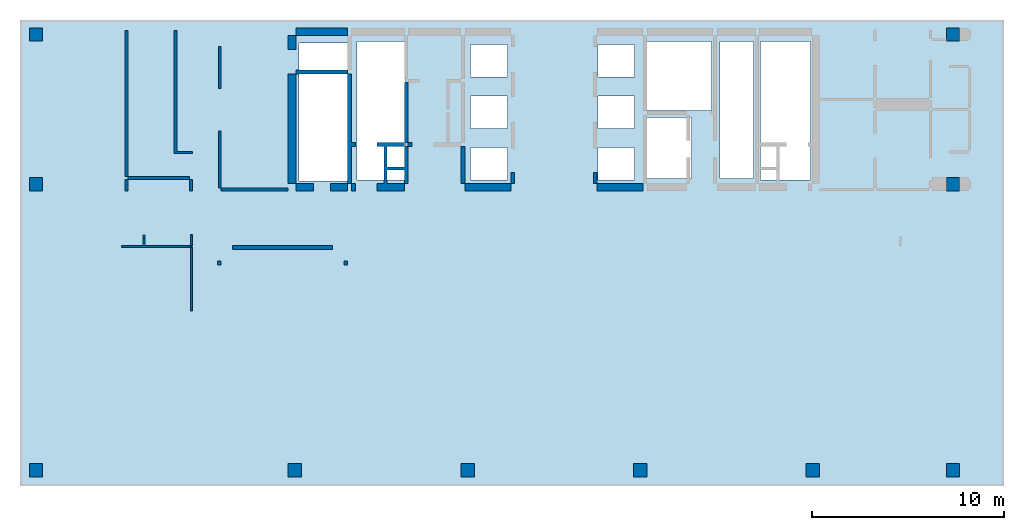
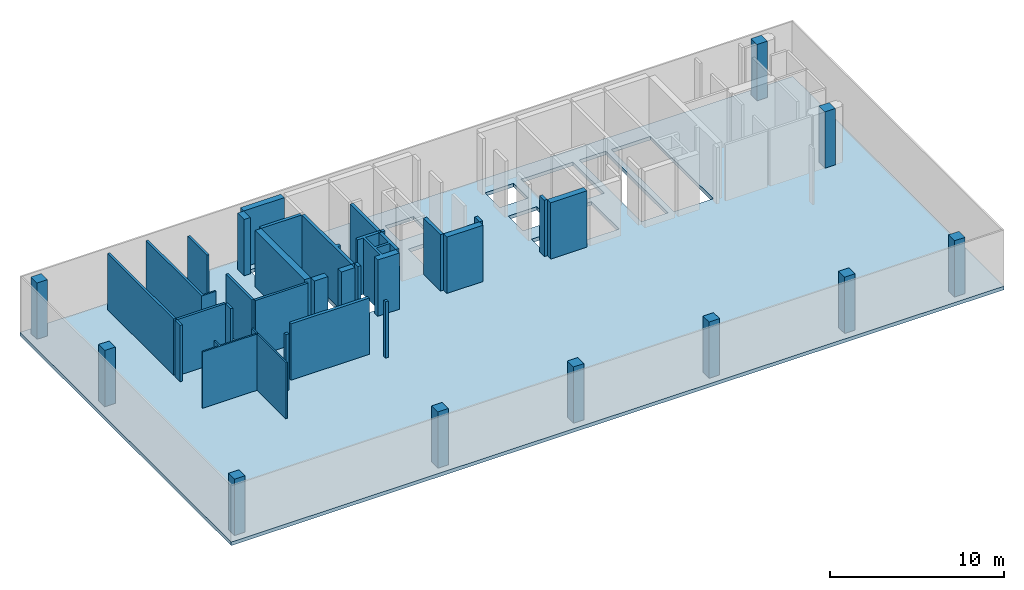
# One storey, part 1 of 4: 30 walls, 10 columns, 1 slab.
"""IFC4 building model written with IfcOpenShell, lengths in millimetres."""

import ifcopenshell
import ifcopenshell.guid

model = None  # the IFC model being written
_history = None  # IfcOwnerHistory: only IFC2X3 demands one
_inside = {}  # id of a spatial element -> (the spatial element, [elements in it])
_under = {}  # id of a project, library or spatial element -> (it, [spatial elements below it])
_declared = {}  # id of a project -> (the project, [libraries it declares])
_typed = {}  # id of a type object -> (the type object, [elements of that type])
_made_of = {}  # id of a material, layer set ... -> (it, [elements and type objects made of it])


def new_model(schema):
    """Start an empty IFC model of exactly this schema.

    Asked for "IFC4X3", IfcOpenShell would pick the latest addendum, in which some entities
    have other attributes; the version numbers below select the first issue.
    IFC2X3 requires an IfcOwnerHistory on every rooted entity: one is made here for all.
    """
    global model, _history
    if schema == "IFC4X3":
        model = ifcopenshell.file(schema_version=(4, 3, 0, 0))
    else:
        model = ifcopenshell.file(schema=schema)
    _inside.clear()
    _under.clear()
    _declared.clear()
    _typed.clear()
    _made_of.clear()
    _history = None
    if model.schema == "IFC2X3":
        org = make("IfcOrganization", Name="unknown")
        user = make(
            "IfcPersonAndOrganization",
            ThePerson=make("IfcPerson", FamilyName="unknown"),
            TheOrganization=org,
        )
        app = make(
            "IfcApplication",
            ApplicationDeveloper=org,
            Version="unknown",
            ApplicationFullName="unknown",
            ApplicationIdentifier="unknown",
        )
        _history = make(
            "IfcOwnerHistory",
            OwningUser=user,
            OwningApplication=app,
            ChangeAction="ADDED",
            CreationDate=0,
        )
    return model


def make(cls, **values):
    """One entity of the class cls with the attributes given. An attribute that is None is left unset."""
    return model.create_entity(
        cls, **{name: value for name, value in values.items() if value is not None}
    )


def rooted(cls, **values):
    """An entity with a GlobalId (a new one), such as an element, a storey or a relation."""
    return make(cls, GlobalId=ifcopenshell.guid.new(), OwnerHistory=_history, **values)


def si_unit(unit_type, name, prefix=None):
    """IfcSIUnit, for example si_unit("LENGTHUNIT", "METRE", prefix="MILLI")."""
    return make("IfcSIUnit", UnitType=unit_type, Prefix=prefix, Name=name)


def assignment(units):
    """IfcUnitAssignment: the units of a project."""
    return None if units is None else make("IfcUnitAssignment", Units=units)


def point(xyz):
    """IfcCartesianPoint."""
    return None if xyz is None else make("IfcCartesianPoint", Coordinates=xyz)


def direction(xyz):
    """IfcDirection."""
    return None if xyz is None else make("IfcDirection", DirectionRatios=xyz)


def frame(location, z_axis=None, x_axis=None):
    """IfcAxis2Placement3D, a coordinate frame: its origin and axes. An axis left out is left unset."""
    return make(
        "IfcAxis2Placement3D",
        Location=point(location),
        Axis=direction(z_axis),
        RefDirection=direction(x_axis),
    )


def origin():
    """The frame at (0, 0, 0) with its axes left unset."""
    return frame((0.0, 0.0, 0.0))


def place(relative_to, where):
    """IfcLocalPlacement: puts the frame where relative to a parent placement (None: the world)."""
    return make(
        "IfcLocalPlacement", PlacementRelTo=relative_to, RelativePlacement=where
    )


def context(
    kind, dimensions, precision=None, world=None, true_north=None, identifier=None
):
    """IfcGeometricRepresentationContext, for example the 3D "Model" context."""
    return make(
        "IfcGeometricRepresentationContext",
        ContextIdentifier=identifier,
        ContextType=kind,
        CoordinateSpaceDimension=dimensions,
        Precision=precision,
        WorldCoordinateSystem=world,
        TrueNorth=true_north,
    )


def project(units=None, contexts=None):
    """IfcProject with its units and contexts."""
    return rooted(
        "IfcProject",
        Name="project",
        RepresentationContexts=contexts,
        UnitsInContext=assignment(units),
    )


def spatial(cls, under=None, at=None, **own):
    """A site, building, storey or space (cls), placed at a placement, below another one or the project."""
    s = rooted(cls, ObjectPlacement=at, **own)
    if under is not None:
        _under.setdefault(under.id(), (under, []))[1].append(s)
    return s


def point_list(points):
    """IfcCartesianPointList2D or 3D."""
    cls = (
        "IfcCartesianPointList2D" if len(points[0]) == 2 else "IfcCartesianPointList3D"
    )
    return make(cls, CoordList=points)


def triangles(points, corners, closed=None, point_numbers=None):
    """IfcTriangulatedFaceSet: each triangle names its three corners, points numbered from 1."""
    return make(
        "IfcTriangulatedFaceSet",
        Coordinates=point_list(points),
        Closed=closed,
        CoordIndex=corners,
        PnIndex=point_numbers,
    )


def shape(context_of_items, identifier, shape_type, items):
    """IfcShapeRepresentation: the items that make up one representation, for example the "Body"."""
    return make(
        "IfcShapeRepresentation",
        ContextOfItems=context_of_items,
        RepresentationIdentifier=identifier,
        RepresentationType=shape_type,
        Items=items,
    )


def made_of(thing, what):
    """Note that an element or type object is made of a material, layer set ...; save() writes the relation."""
    if what is not None:
        _made_of.setdefault(what.id(), (what, []))[1].append(thing)
    return thing


def element(
    cls,
    number,
    at=None,
    inside=None,
    cuts=None,
    type_object=None,
    material=None,
    context=None,
    identifier="Body",
    shape_type=None,
    held_by="IfcProductDefinitionShape",
    body=None,
    shapes=None,
    **own,
):
    """One element of the class cls, such as IfcWall. Its Tag is "e" and its number.

    at: its placement. inside: the storey or other place that contains it. cuts: it is an
    opening in that element (IfcRelVoidsElement). A single representation is given by context,
    identifier, shape_type and body (its items); several are given by shapes. held_by: the class
    of the entity that holds the representations. save() writes the other relations.
    """
    e = rooted(cls, Tag="e%d" % number, ObjectPlacement=at, **own)
    if body is not None:
        shapes = [shape(context, identifier, shape_type, body)]
    if shapes is not None:
        e.Representation = make(held_by, Representations=shapes)
    if inside is not None:
        _inside.setdefault(inside.id(), (inside, []))[1].append(e)
    if cuts is not None:
        rooted(
            "IfcRelVoidsElement", RelatingBuildingElement=cuts, RelatedOpeningElement=e
        )
    if type_object is not None:
        _typed.setdefault(type_object.id(), (type_object, []))[1].append(e)
    return made_of(e, material)


def aggregate(whole, parts):
    """IfcRelAggregates: a whole, such as a stair, and the parts it consists of."""
    return rooted("IfcRelAggregates", RelatingObject=whole, RelatedObjects=parts)


def save(model, path):
    """Write the relations noted so far, then the file.

    IfcRelAggregates (storeys below a building ...), IfcRelContainedInSpatialStructure (elements
    in a storey), IfcRelDefinesByType, IfcRelAssociatesMaterial and IfcRelDeclares: one each for
    every whole, place, type object, material and project.
    """
    for whole, parts in _under.values():
        aggregate(whole, parts)
    for where, things in _inside.values():
        rooted(
            "IfcRelContainedInSpatialStructure",
            RelatedElements=things,
            RelatingStructure=where,
        )
    for kind, things in _typed.values():
        rooted("IfcRelDefinesByType", RelatedObjects=things, RelatingType=kind)
    for what, things in _made_of.values():
        rooted("IfcRelAssociatesMaterial", RelatedObjects=things, RelatingMaterial=what)
    for by, libraries in _declared.values():
        rooted("IfcRelDeclares", RelatingContext=by, RelatedDefinitions=libraries)
    model.write(path)


model = new_model("IFC4")

# Units and contexts
model_context = context("Model", 3, precision=0.001, world=origin())
ifc_project = project(units=[si_unit("LENGTHUNIT", "METRE", prefix="MILLI"), si_unit("AREAUNIT", "SQUARE_METRE"), si_unit("VOLUMEUNIT", "CUBIC_METRE")], contexts=[model_context])

# Site, building, storey
site_placement = place(None, origin())
site = spatial("IfcSite", under=ifc_project, at=site_placement, Name="Site", CompositionType="ELEMENT")
building_placement = place(site_placement, origin())
building = spatial("IfcBuilding", under=site, at=building_placement, Name="INNOCEAN", CompositionType="ELEMENT")
storey_placement = place(building_placement, frame((0.0, 0.0, 59600.0)))
storey = spatial("IfcBuildingStorey", under=building, at=storey_placement, Name="F14", CompositionType="ELEMENT", Elevation=59600.0)

# Columns
column_1_placement = place(storey_placement, origin())
element("IfcColumn", 1, at=column_1_placement, inside=storey, Name="F14_Columns_F14_001", context=model_context, shape_type="Tessellation", body=[
    triangles([(40114.8, 2023.7, 0.0), (40114.8, 2023.7, 3950.0), (40114.8, 2722.3, 0.0), (40114.8, 2722.3, 3950.0), (40813.0, 2023.7, 3950.0), (40813.0, 2023.7, 0.0), (40813.0, 2722.3, 0.0), (40813.0, 2722.3, 3950.0)], [[1, 2, 3], [3, 2, 4], [5, 6, 7], [5, 7, 8], [6, 5, 1], [1, 5, 2], [8, 7, 3], [8, 3, 4], [3, 7, 1], [1, 7, 6], [8, 4, 2], [8, 2, 5]], closed=True),
])
column_2_placement = place(storey_placement, origin())
element("IfcColumn", 2, at=column_2_placement, inside=storey, Name="F14_Columns_F14_002", context=model_context, shape_type="Tessellation", body=[
    triangles([(47413.4, 24721.0, 0.0), (47413.4, 24721.0, 3950.0), (47413.4, 25419.5, 0.0), (47413.4, 25419.5, 3950.0), (48111.6, 24721.0, 3950.0), (48111.6, 24721.0, 0.0), (48111.6, 25419.5, 0.0), (48111.6, 25419.5, 3950.0)], [[1, 2, 3], [3, 2, 4], [5, 6, 7], [5, 7, 8], [6, 5, 1], [1, 5, 2], [8, 7, 3], [8, 3, 4], [1, 3, 6], [3, 7, 6], [4, 2, 5], [8, 4, 5]], closed=True),
])
column_3_placement = place(storey_placement, origin())
element("IfcColumn", 3, at=column_3_placement, inside=storey, Name="F14_Columns_F14_003", context=model_context, shape_type="Tessellation", body=[
    triangles([(47413.4, 16922.4, 0.0), (47413.4, 16922.4, 3950.0), (47413.4, 17620.9, 0.0), (47413.4, 17620.9, 3950.0), (48111.6, 16922.4, 3950.0), (48111.6, 16922.4, 0.0), (48111.6, 17620.9, 0.0), (48111.6, 17620.9, 3950.0)], [[1, 2, 3], [3, 2, 4], [5, 6, 7], [5, 7, 8], [6, 5, 1], [1, 5, 2], [8, 7, 3], [8, 3, 4], [1, 3, 6], [3, 7, 6], [4, 2, 5], [8, 4, 5]], closed=True),
])
column_4_placement = place(storey_placement, origin())
element("IfcColumn", 4, at=column_4_placement, inside=storey, Name="F14_Columns_F14_004", context=model_context, shape_type="Tessellation", body=[
    triangles([(13129.0, 2023.7, 0.0), (13129.0, 2023.7, 3950.0), (13129.0, 2722.3, 0.0), (13129.0, 2722.3, 3950.0), (13827.2, 2023.7, 3950.0), (13827.2, 2023.7, 0.0), (13827.2, 2722.3, 0.0), (13827.2, 2722.3, 3950.0)], [[1, 2, 3], [3, 2, 4], [5, 6, 7], [5, 7, 8], [6, 5, 1], [1, 5, 2], [8, 7, 3], [8, 3, 4], [3, 7, 1], [1, 7, 6], [8, 4, 2], [8, 2, 5]], closed=True),
])
column_5_placement = place(storey_placement, origin())
element("IfcColumn", 5, at=column_5_placement, inside=storey, Name="F14_Columns_F14_005", context=model_context, shape_type="Tessellation", body=[
    triangles([(47413.4, 2023.7, 0.0), (47413.4, 2023.7, 3950.0), (47413.4, 2722.3, 0.0), (47413.4, 2722.3, 3950.0), (48111.6, 2023.7, 3950.0), (48111.6, 2023.7, 0.0), (48111.6, 2722.3, 0.0), (48111.6, 2722.3, 3950.0)], [[1, 2, 3], [3, 2, 4], [5, 6, 7], [5, 7, 8], [6, 5, 1], [1, 5, 2], [8, 7, 3], [8, 3, 4], [3, 7, 1], [1, 7, 6], [8, 4, 2], [8, 2, 5]], closed=True),
])
column_6_placement = place(storey_placement, origin())
element("IfcColumn", 6, at=column_6_placement, inside=storey, Name="F14_Columns_F14_006", context=model_context, shape_type="Tessellation", body=[
    triangles([(-363.9, 2023.7, 0.0), (-363.9, 2023.7, 3950.0), (-363.9, 2722.3, 0.0), (-363.9, 2722.3, 3950.0), (334.3, 2023.7, 3950.0), (334.3, 2023.7, 0.0), (334.3, 2722.3, 0.0), (334.3, 2722.3, 3950.0)], [[1, 2, 3], [3, 2, 4], [5, 6, 7], [5, 7, 8], [6, 5, 1], [1, 5, 2], [8, 7, 3], [8, 3, 4], [3, 7, 1], [1, 7, 6], [8, 4, 2], [8, 2, 5]], closed=True),
])
column_7_placement = place(storey_placement, origin())
element("IfcColumn", 7, at=column_7_placement, inside=storey, Name="F14_Columns_F14_007", context=model_context, shape_type="Tessellation", body=[
    triangles([(-363.9, 24721.0, 0.0), (-363.9, 24721.0, 3950.0), (-363.9, 25419.5, 0.0), (-363.9, 25419.5, 3950.0), (334.3, 24721.0, 3950.0), (334.3, 24721.0, 0.0), (334.3, 25419.5, 0.0), (334.3, 25419.5, 3950.0)], [[1, 2, 3], [3, 2, 4], [5, 6, 7], [5, 7, 8], [6, 5, 1], [1, 5, 2], [8, 7, 3], [8, 3, 4], [3, 7, 1], [1, 7, 6], [8, 4, 2], [8, 2, 5]], closed=True),
])
column_8_placement = place(storey_placement, origin())
element("IfcColumn", 8, at=column_8_placement, inside=storey, Name="F14_Columns_F14_008", context=model_context, shape_type="Tessellation", body=[
    triangles([(31128.0, 2023.7, 0.0), (31128.0, 2023.7, 3950.0), (31128.0, 2722.3, 0.0), (31128.0, 2722.3, 3950.0), (31826.2, 2023.7, 3950.0), (31826.2, 2023.7, 0.0), (31826.2, 2722.3, 0.0), (31826.2, 2722.3, 3950.0)], [[1, 2, 3], [3, 2, 4], [5, 6, 7], [5, 7, 8], [6, 5, 1], [1, 5, 2], [8, 7, 3], [8, 3, 4], [3, 7, 1], [1, 7, 6], [8, 4, 2], [8, 2, 5]], closed=True),
])
column_9_placement = place(storey_placement, origin())
element("IfcColumn", 9, at=column_9_placement, inside=storey, Name="F14_Columns_F14_009", context=model_context, shape_type="Tessellation", body=[
    triangles([(22128.5, 2023.7, 0.0), (22128.5, 2023.7, 3950.0), (22128.5, 2722.3, 0.0), (22128.5, 2722.3, 3950.0), (22826.7, 2023.7, 3950.0), (22826.7, 2023.7, 0.0), (22826.7, 2722.3, 0.0), (22826.7, 2722.3, 3950.0)], [[1, 2, 3], [3, 2, 4], [5, 6, 7], [5, 7, 8], [6, 5, 1], [1, 5, 2], [8, 7, 3], [8, 3, 4], [3, 7, 1], [1, 7, 6], [8, 4, 2], [8, 2, 5]], closed=True),
])
column_10_placement = place(storey_placement, origin())
element("IfcColumn", 10, at=column_10_placement, inside=storey, Name="F14_Columns_F14_010", context=model_context, shape_type="Tessellation", body=[
    triangles([(-363.9, 16922.4, 0.0), (-363.9, 16922.4, 3950.0), (-363.9, 17620.9, 0.0), (-363.9, 17620.9, 3950.0), (334.3, 16922.4, 3950.0), (334.3, 16922.4, 0.0), (334.3, 17620.9, 0.0), (334.3, 17620.9, 3950.0)], [[1, 2, 3], [3, 2, 4], [5, 6, 7], [5, 7, 8], [6, 5, 1], [1, 5, 2], [8, 7, 3], [8, 3, 4], [3, 7, 1], [1, 7, 6], [8, 4, 2], [8, 2, 5]], closed=True),
])

# Slab
slab_placement = place(storey_placement, origin())
element("IfcSlab", 11, at=slab_placement, inside=storey, Name="F14_Slab_F14_001", context=model_context, shape_type="Tessellation", body=[
    triangles([(-846.215139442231, 25825.974025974, 0.0), (50420.3187250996, 25825.974025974, -250.0), (-846.215139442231, 25825.974025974, -250.0), (50420.3187250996, 25825.974025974, 0.0), (-846.215139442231, 1552.38095238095, 0.0), (-846.215139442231, 1552.38095238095, -250.0), (50420.3187250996, 1552.38095238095, 0.0), (50420.3187250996, 1552.38095238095, -250.0), (34130.6772908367, 20745.4545454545, -250.0), (31733.0677290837, 20745.4545454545, 0.0), (31733.0677290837, 20745.4545454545, -250.0), (34130.6772908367, 20745.4545454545, 0.0), (31733.0677290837, 17570.1298701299, 0.0), (31733.0677290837, 17570.1298701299, -250.0), (34130.6772908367, 17570.1298701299, 0.0), (34130.6772908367, 17570.1298701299, -250.0), (31168.9243027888, 19193.0735930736, 0.0), (29264.9402390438, 19193.0735930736, 0.0), (29264.9402390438, 19193.0735930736, -250.0), (31168.9243027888, 19193.0735930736, -250.0), (31168.9243027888, 17499.5670995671, 0.0), (31168.9243027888, 17499.5670995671, -250.0), (29264.9402390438, 17499.5670995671, 0.0), (29264.9402390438, 17499.5670995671, -250.0), (31168.9243027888, 21874.4588744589, 0.0), (29264.9402390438, 21874.4588744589, 0.0), (29264.9402390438, 21874.4588744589, -250.0), (31168.9243027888, 21874.4588744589, -250.0), (29264.9402390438, 20180.9523809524, 0.0), (29264.9402390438, 20180.9523809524, -250.0), (31168.9243027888, 20180.9523809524, 0.0), (31168.9243027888, 20180.9523809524, -250.0), (24540.2390438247, 19193.0735930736, -250.0), (22636.2549800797, 19193.0735930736, 0.0), (22636.2549800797, 19193.0735930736, -250.0), (24540.2390438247, 19193.0735930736, 0.0), (22636.2549800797, 17499.5670995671, 0.0), (22636.2549800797, 17499.5670995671, -250.0), (24540.2390438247, 17499.5670995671, 0.0), (24540.2390438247, 17499.5670995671, -250.0), (24540.2390438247, 21874.4588744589, -250.0), (22636.2549800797, 21874.4588744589, 0.0), (22636.2549800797, 21874.4588744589, -250.0), (24540.2390438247, 21874.4588744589, 0.0), (22636.2549800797, 20180.9523809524, 0.0), (22636.2549800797, 20180.9523809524, -250.0), (24540.2390438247, 20180.9523809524, 0.0), (24540.2390438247, 20180.9523809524, -250.0), (16219.1235059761, 24626.4069264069, 0.0), (13680.4780876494, 24626.4069264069, 0.0), (13680.4780876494, 24626.4069264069, -250.0), (16219.1235059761, 24626.4069264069, -250.0), (13680.4780876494, 17429.0043290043, 0.0), (13680.4780876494, 17429.0043290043, -250.0), (16219.1235059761, 17429.0043290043, 0.0), (16219.1235059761, 17429.0043290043, -250.0), (40336.2549800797, 24696.9696969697, -250.0), (37727.0916334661, 24696.9696969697, 0.0), (37727.0916334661, 24696.9696969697, -250.0), (40336.2549800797, 24696.9696969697, 0.0), (37727.0916334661, 17499.5670995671, 0.0), (37727.0916334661, 17499.5670995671, -250.0), (40336.2549800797, 17499.5670995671, 0.0), (40336.2549800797, 17499.5670995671, -250.0), (37374.5019920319, 24696.9696969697, 0.0), (35611.5537848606, 24696.9696969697, 0.0), (35611.5537848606, 24696.9696969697, -250.0), (37374.5019920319, 24696.9696969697, -250.0), (35611.5537848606, 17570.1298701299, 0.0), (35611.5537848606, 17570.1298701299, -250.0), (37374.5019920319, 17570.1298701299, 0.0), (37374.5019920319, 17570.1298701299, -250.0), (35188.4462151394, 24696.9696969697, 0.0), (31733.0677290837, 24696.9696969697, 0.0), (31733.0677290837, 24696.9696969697, -250.0), (35188.4462151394, 24696.9696969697, -250.0), (31733.0677290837, 21098.2683982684, 0.0), (31733.0677290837, 21098.2683982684, -250.0), (35188.4462151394, 21098.2683982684, 0.0), (35188.4462151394, 21098.2683982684, -250.0), (31168.9243027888, 24555.8441558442, 0.0), (29264.9402390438, 24555.8441558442, 0.0), (29264.9402390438, 24555.8441558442, -250.0), (31168.9243027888, 24555.8441558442, -250.0), (29264.9402390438, 22862.3376623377, 0.0), (29264.9402390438, 22862.3376623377, -250.0), (31168.9243027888, 22862.3376623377, 0.0), (31168.9243027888, 22862.3376623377, -250.0), (19251.3944223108, 24696.9696969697, 0.0), (16712.7490039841, 24696.9696969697, 0.0), (16712.7490039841, 24696.9696969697, -250.0), (19251.3944223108, 24696.9696969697, -250.0), (16712.7490039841, 17499.5670995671, 0.0), (16712.7490039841, 17499.5670995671, -250.0), (19251.3944223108, 17499.5670995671, 0.0), (19251.3944223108, 17499.5670995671, -250.0), (24540.2390438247, 24555.8441558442, -250.0), (22636.2549800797, 24555.8441558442, 0.0), (22636.2549800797, 24555.8441558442, -250.0), (24540.2390438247, 24555.8441558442, 0.0), (22636.2549800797, 22862.3376623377, 0.0), (22636.2549800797, 22862.3376623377, -250.0), (24540.2390438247, 22862.3376623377, 0.0), (24540.2390438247, 22862.3376623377, -250.0)], [[1, 2, 3], [1, 4, 2], [5, 1, 6], [6, 1, 3], [4, 7, 2], [2, 7, 8], [7, 6, 8], [7, 5, 6], [9, 10, 11], [12, 10, 9], [10, 13, 14], [10, 14, 11], [15, 12, 9], [15, 9, 16], [14, 15, 16], [13, 15, 14], [17, 18, 19], [17, 19, 20], [21, 17, 20], [21, 20, 22], [23, 21, 22], [23, 22, 24], [18, 23, 24], [18, 24, 19], [25, 26, 27], [25, 27, 28], [26, 29, 30], [26, 30, 27], [31, 25, 28], [31, 28, 32], [29, 31, 32], [29, 32, 30], [33, 34, 35], [36, 34, 33], [34, 37, 38], [34, 38, 35], [39, 36, 33], [39, 33, 40], [38, 39, 40], [37, 39, 38], [41, 42, 43], [44, 42, 41], [42, 45, 46], [42, 46, 43], [47, 44, 41], [47, 41, 48], [46, 47, 48], [45, 47, 46], [49, 50, 51], [49, 51, 52], [50, 53, 54], [50, 54, 51], [55, 49, 52], [55, 52, 56], [53, 55, 56], [53, 56, 54], [57, 58, 59], [60, 58, 57], [58, 61, 62], [58, 62, 59], [63, 60, 57], [63, 57, 64], [62, 63, 64], [61, 63, 62], [65, 66, 67], [65, 67, 68], [66, 69, 70], [66, 70, 67], [71, 65, 68], [71, 68, 72], [69, 71, 72], [69, 72, 70], [73, 74, 75], [73, 75, 76], [74, 77, 78], [74, 78, 75], [79, 73, 76], [79, 76, 80], [77, 79, 80], [77, 80, 78], [81, 82, 83], [81, 83, 84], [82, 85, 86], [82, 86, 83], [87, 81, 84], [87, 84, 88], [85, 87, 88], [85, 88, 86], [89, 90, 91], [89, 91, 92], [90, 93, 94], [90, 94, 91], [95, 89, 92], [95, 92, 96], [93, 95, 96], [93, 96, 94], [97, 98, 99], [100, 98, 97], [98, 101, 102], [98, 102, 99], [103, 100, 97], [103, 97, 104], [102, 103, 104], [101, 103, 102], [4, 63, 7], [63, 61, 7], [61, 69, 7], [71, 69, 61], [69, 15, 7], [4, 60, 63], [13, 21, 15], [15, 21, 7], [79, 12, 69], [69, 12, 15], [13, 17, 21], [21, 23, 7], [17, 10, 31], [12, 77, 10], [10, 77, 31], [66, 73, 79], [31, 18, 17], [77, 25, 31], [31, 29, 18], [77, 87, 25], [23, 39, 7], [74, 81, 87], [25, 85, 26], [87, 85, 25], [29, 36, 18], [18, 36, 23], [23, 36, 39], [74, 82, 81], [26, 47, 29], [29, 47, 36], [26, 44, 47], [36, 45, 34], [47, 45, 36], [34, 95, 37], [45, 95, 34], [85, 103, 26], [26, 103, 44], [103, 42, 44], [45, 42, 95], [85, 100, 103], [82, 100, 85], [103, 101, 42], [93, 55, 95], [39, 5, 7], [37, 5, 39], [95, 5, 37], [55, 5, 95], [55, 53, 5], [42, 89, 95], [101, 89, 42], [98, 89, 101], [90, 49, 93], [93, 49, 55], [90, 50, 49], [50, 1, 53], [53, 1, 5], [4, 1, 60], [60, 1, 58], [58, 1, 65], [65, 1, 66], [66, 1, 73], [73, 1, 74], [74, 1, 82], [82, 1, 100], [100, 1, 98], [98, 1, 89], [89, 1, 90], [90, 1, 50], [13, 10, 17], [69, 66, 79], [65, 71, 58], [58, 71, 61], [77, 74, 87], [79, 77, 12], [64, 2, 8], [62, 64, 8], [70, 62, 8], [70, 72, 62], [16, 70, 8], [57, 2, 64], [22, 14, 16], [22, 16, 8], [9, 80, 70], [9, 70, 16], [20, 14, 22], [24, 22, 8], [11, 20, 32], [78, 9, 11], [78, 11, 32], [76, 67, 80], [19, 32, 20], [28, 78, 32], [30, 32, 19], [88, 78, 28], [40, 24, 8], [84, 75, 88], [86, 28, 27], [86, 88, 28], [33, 30, 19], [33, 19, 24], [33, 24, 40], [83, 75, 84], [48, 27, 30], [48, 30, 33], [41, 27, 48], [46, 33, 35], [46, 48, 33], [96, 35, 38], [96, 46, 35], [104, 86, 27], [104, 27, 41], [43, 104, 41], [43, 46, 96], [97, 86, 104], [97, 83, 86], [102, 104, 43], [56, 94, 96], [6, 40, 8], [6, 38, 40], [6, 96, 38], [6, 56, 96], [54, 56, 6], [92, 43, 96], [92, 102, 43], [92, 99, 102], [52, 91, 94], [52, 94, 56], [51, 91, 52], [3, 51, 54], [3, 54, 6], [3, 2, 57], [3, 57, 59], [3, 59, 68], [3, 68, 67], [3, 67, 76], [3, 76, 75], [3, 75, 83], [3, 83, 97], [3, 97, 99], [3, 99, 92], [3, 92, 91], [3, 91, 51], [11, 14, 20], [67, 70, 80], [72, 68, 59], [72, 59, 62], [75, 78, 88], [78, 80, 9]], closed=True),
])

# Walls
wall_1_placement = place(storey_placement, origin())
element("IfcWall", 12, at=wall_1_placement, inside=storey, Name="F14_Walls_F14_001", context=model_context, shape_type="Tessellation", body=[
    triangles([(8140.6, 10673.3, 0.0), (8140.6, 13975.7, 0.0), (8140.6, 13975.7, 3950.0), (8140.6, 10673.3, 3950.0), (8039.0, 10673.3, 0.0), (8039.0, 10673.3, 3950.0), (8039.0, 13975.7, 0.0), (8039.0, 13975.7, 3950.0)], [[1, 2, 3], [1, 3, 4], [5, 1, 4], [5, 4, 6], [7, 5, 6], [7, 6, 8], [2, 7, 8], [2, 8, 3], [7, 2, 1], [7, 1, 5], [3, 8, 4], [4, 8, 6]], closed=True),
])
wall_2_placement = place(storey_placement, origin())
element("IfcWall", 13, at=wall_2_placement, inside=storey, Name="F14_Walls_F14_002", context=model_context, shape_type="Tessellation", body=[
    triangles([(9638.4, 13073.9, 0.0), (9638.4, 13277.1, 0.0), (9638.4, 13277.1, 3950.0), (9638.4, 13073.9, 3950.0), (9435.3, 13073.9, 0.0), (9435.3, 13073.9, 3950.0), (9435.3, 13277.1, 0.0), (9435.3, 13277.1, 3950.0)], [[1, 2, 3], [1, 3, 4], [5, 1, 4], [5, 4, 6], [7, 5, 6], [7, 6, 8], [2, 7, 8], [2, 8, 3], [7, 2, 1], [7, 1, 5], [3, 8, 4], [4, 8, 6]], closed=True),
])
wall_3_placement = place(storey_placement, origin())
element("IfcWall", 14, at=wall_3_placement, inside=storey, Name="F14_Walls_F14_003", context=model_context, shape_type="Tessellation", body=[
    triangles([(16226.2, 13073.9, 0.0), (16226.2, 13277.1, 0.0), (16226.2, 13277.1, 3950.0), (16226.2, 13073.9, 3950.0), (16035.8, 13073.9, 0.0), (16035.8, 13073.9, 3950.0), (16035.8, 13277.1, 0.0), (16035.8, 13277.1, 3950.0)], [[1, 2, 3], [1, 3, 4], [5, 1, 4], [5, 4, 6], [7, 5, 6], [7, 6, 8], [2, 7, 8], [2, 8, 3], [7, 2, 1], [7, 1, 5], [3, 8, 4], [4, 8, 6]], closed=True),
])
wall_4_placement = place(storey_placement, origin())
element("IfcWall", 15, at=wall_4_placement, inside=storey, Name="F14_Walls_F14_004", context=model_context, shape_type="Tessellation", body=[
    triangles([(15426.5, 13874.1, 0.0), (15426.5, 14077.3, 0.0), (15426.5, 14077.3, 3950.0), (15426.5, 13874.1, 3950.0), (10235.0, 13874.1, 0.0), (10235.0, 13874.1, 3950.0), (10235.0, 14077.3, 0.0), (10235.0, 14077.3, 3950.0)], [[1, 2, 3], [1, 3, 4], [5, 1, 4], [5, 4, 6], [7, 5, 6], [7, 6, 8], [2, 7, 8], [2, 8, 3], [5, 2, 1], [7, 2, 5], [3, 6, 4], [3, 8, 6]], closed=True),
])
wall_5_placement = place(storey_placement, origin())
element("IfcWall", 16, at=wall_5_placement, inside=storey, Name="F14_Walls_F14_005", context=model_context, shape_type="Tessellation", body=[
    triangles([(5655.0, 14077.3, 0.0), (5655.0, 14625.0, 0.0), (5655.0, 14625.0, 3950.0), (5655.0, 14077.3, 3950.0), (8039.0, 14077.3, 0.0), (8039.0, 14077.3, 3950.0), (8039.0, 13975.7, 0.0), (8039.0, 13975.7, 3950.0), (4434.2, 13975.7, 0.0), (4434.2, 13975.7, 3950.0), (4434.2, 14077.3, 0.0), (4434.2, 14077.3, 3950.0), (5550.0, 14077.3, 3950.0), (5550.0, 14077.3, 0.0), (5550.0, 14625.0, 0.0), (5550.0, 14625.0, 3950.0)], [[1, 2, 3], [1, 3, 4], [5, 1, 4], [5, 4, 6], [7, 5, 6], [7, 6, 8], [9, 7, 8], [9, 8, 10], [11, 9, 10], [11, 10, 12], [11, 12, 13], [14, 11, 13], [15, 14, 13], [15, 13, 16], [2, 15, 16], [2, 16, 3], [1, 5, 7], [2, 1, 14], [15, 2, 14], [9, 1, 7], [9, 14, 1], [11, 14, 9], [6, 4, 8], [4, 3, 13], [3, 16, 13], [4, 10, 8], [13, 10, 4], [13, 12, 10]], closed=True),
])
wall_6_placement = place(storey_placement, origin())
element("IfcWall", 17, at=wall_6_placement, inside=storey, Name="F14_Walls_F14_006", context=model_context, shape_type="Tessellation", body=[
    triangles([(8140.0, 14623.4, 0.0), (8140.0, 14625.0, 0.0), (8140.0, 14625.0, 3950.0), (8140.0, 14623.4, 3950.0), (8140.6, 14623.4, 0.0), (8140.6, 14623.4, 3950.0), (8140.6, 14077.3, 0.0), (8140.6, 14077.3, 3950.0), (8140.0, 14077.3, 0.0), (8140.0, 14077.3, 3950.0), (8140.0, 14075.0, 0.0), (8140.0, 14075.0, 3950.0), (8040.0, 14075.0, 3950.0), (8040.0, 14075.0, 0.0), (8040.0, 14077.3, 0.0), (8040.0, 14077.3, 3950.0), (8039.0, 14077.3, 0.0), (8039.0, 14077.3, 3950.0), (8039.0, 14623.4, 0.0), (8039.0, 14623.4, 3950.0), (8040.0, 14623.4, 0.0), (8040.0, 14623.4, 3950.0), (8040.0, 14625.0, 0.0), (8040.0, 14625.0, 3950.0)], [[1, 2, 3], [1, 3, 4], [5, 1, 4], [5, 4, 6], [7, 5, 6], [7, 6, 8], [9, 7, 8], [9, 8, 10], [11, 9, 10], [11, 10, 12], [11, 12, 13], [14, 11, 13], [15, 14, 13], [15, 13, 16], [17, 15, 16], [17, 16, 18], [19, 17, 18], [19, 18, 20], [21, 19, 20], [21, 20, 22], [23, 21, 22], [23, 22, 24], [23, 24, 3], [2, 23, 3], [15, 9, 11], [15, 11, 14], [1, 5, 7], [1, 7, 9], [21, 9, 15], [21, 1, 9], [19, 15, 17], [19, 21, 15], [23, 2, 1], [23, 1, 21], [10, 16, 12], [12, 16, 13], [6, 4, 8], [8, 4, 10], [10, 22, 16], [4, 22, 10], [16, 20, 18], [22, 20, 16], [3, 24, 4], [4, 24, 22]], closed=True),
])
wall_7_placement = place(storey_placement, origin())
element("IfcWall", 18, at=wall_7_placement, inside=storey, Name="F14_Walls_F14_007", context=model_context, shape_type="Tessellation", body=[
    triangles([(13129.0, 16922.4, 0.0), (13129.0, 17074.8, 0.0), (13129.0, 17074.8, 3950.0), (13129.0, 16922.4, 3950.0), (9638.4, 16922.4, 3950.0), (9638.4, 16922.4, 0.0), (9638.4, 17074.8, 0.0), (9638.4, 17074.8, 3950.0)], [[1, 2, 3], [1, 3, 4], [1, 4, 5], [6, 1, 5], [7, 6, 5], [7, 5, 8], [7, 8, 3], [2, 7, 3], [7, 2, 1], [7, 1, 6], [3, 8, 4], [4, 8, 5]], closed=True),
])
wall_8_placement = place(storey_placement, origin())
element("IfcWall", 19, at=wall_8_placement, inside=storey, Name="F14_Walls_F14_008", context=model_context, shape_type="Tessellation", body=[
    triangles([(16226.2, 17316.1, 0.0), (16226.2, 17316.1, 3950.0), (16226.2, 16922.4, 3950.0), (16226.2, 16922.4, 0.0), (15337.6, 16922.4, 0.0), (15337.6, 16922.4, 3950.0), (15337.6, 17316.1, 3950.0), (15337.6, 17316.1, 0.0)], [[1, 2, 3], [4, 1, 3], [5, 4, 3], [5, 3, 6], [5, 6, 7], [8, 5, 7], [1, 8, 7], [1, 7, 2], [8, 1, 4], [8, 4, 5], [2, 7, 3], [3, 7, 6]], closed=True),
])
wall_9_placement = place(storey_placement, origin())
element("IfcWall", 20, at=wall_9_placement, inside=storey, Name="F14_Walls_F14_009", context=model_context, shape_type="Tessellation", body=[
    triangles([(14436.4, 17316.1, 0.0), (14436.4, 17316.1, 3950.0), (14436.4, 16922.4, 3950.0), (14436.4, 16922.4, 0.0), (13535.2, 16922.4, 0.0), (13535.2, 16922.4, 3950.0), (13535.2, 17316.1, 3950.0), (13535.2, 17316.1, 0.0)], [[1, 2, 3], [4, 1, 3], [5, 4, 3], [5, 3, 6], [5, 6, 7], [8, 5, 7], [1, 8, 7], [1, 7, 2], [8, 1, 4], [8, 4, 5], [2, 7, 3], [3, 7, 6]], closed=True),
])
wall_10_placement = place(storey_placement, origin())
element("IfcWall", 21, at=wall_10_placement, inside=storey, Name="F14_Walls_F14_010", context=model_context, shape_type="Tessellation", body=[
    triangles([(16632.4, 17316.1, 0.0), (16632.4, 17316.1, 3950.0), (16632.4, 16922.4, 3950.0), (16632.4, 16922.4, 0.0), (16429.3, 16922.4, 3950.0), (16429.3, 16922.4, 0.0), (16429.3, 17316.1, 3950.0), (16429.3, 17316.1, 0.0)], [[1, 2, 3], [4, 1, 3], [4, 3, 5], [6, 4, 5], [6, 5, 7], [8, 6, 7], [8, 7, 2], [1, 8, 2], [8, 1, 4], [8, 4, 6], [2, 7, 3], [3, 7, 5]], closed=True),
])
wall_11_placement = place(storey_placement, origin())
element("IfcWall", 22, at=wall_11_placement, inside=storey, Name="F14_Walls_F14_011", context=model_context, shape_type="Tessellation", body=[
    triangles([(4789.6, 16922.4, 0.0), (4789.6, 17519.3, 0.0), (4789.6, 17519.3, 3950.0), (4789.6, 16922.4, 3950.0), (4637.3, 16922.4, 0.0), (4637.3, 16922.4, 3950.0), (4637.3, 17519.3, 0.0), (4637.3, 17519.3, 3950.0)], [[1, 2, 3], [1, 3, 4], [5, 1, 4], [5, 4, 6], [7, 5, 6], [7, 6, 8], [2, 7, 8], [2, 8, 3], [7, 2, 1], [7, 1, 5], [3, 8, 4], [4, 8, 6]], closed=True),
])
wall_12_placement = place(storey_placement, origin())
element("IfcWall", 23, at=wall_12_placement, inside=storey, Name="F14_Walls_F14_012", context=model_context, shape_type="Tessellation", body=[
    triangles([(8140.6, 16922.4, 0.0), (8140.6, 17519.3, 0.0), (8140.6, 17519.3, 3950.0), (8140.6, 16922.4, 3950.0), (7988.3, 16922.4, 0.0), (7988.3, 16922.4, 3950.0), (7988.3, 17519.3, 0.0), (7988.3, 17519.3, 3950.0)], [[1, 2, 3], [1, 3, 4], [5, 1, 4], [5, 4, 6], [7, 5, 6], [7, 6, 8], [2, 7, 8], [2, 8, 3], [7, 2, 1], [7, 1, 5], [3, 8, 4], [4, 8, 6]], closed=True),
])
wall_13_placement = place(storey_placement, origin())
element("IfcWall", 24, at=wall_13_placement, inside=storey, Name="F14_Walls_F14_013", context=model_context, shape_type="Tessellation", body=[
    triangles([(7988.3, 17519.3, 0.0), (7988.3, 17671.7, 0.0), (7988.3, 17671.7, 3950.0), (7988.3, 17519.3, 3950.0), (4789.6, 17519.3, 0.0), (4789.6, 17519.3, 3950.0), (4789.6, 17671.7, 0.0), (4789.6, 17671.7, 3950.0)], [[1, 2, 3], [1, 3, 4], [5, 1, 4], [5, 4, 6], [7, 5, 6], [7, 6, 8], [2, 7, 8], [2, 8, 3], [7, 2, 1], [7, 1, 5], [3, 8, 4], [4, 8, 6]], closed=True),
])
wall_14_placement = place(storey_placement, origin())
element("IfcWall", 25, at=wall_14_placement, inside=storey, Name="F14_Walls_F14_014", context=model_context, shape_type="Tessellation", body=[
    triangles([(18130.0, 19245.0, 0.0), (18130.0, 17316.1, 0.0), (18130.0, 17316.1, 3950.0), (18130.0, 19245.0, 3950.0), (17749.4, 17316.1, 0.0), (17749.4, 17316.1, 3950.0), (17749.4, 16922.4, 0.0), (17749.4, 16922.4, 3950.0), (19183.7, 16922.4, 0.0), (19183.7, 16922.4, 3950.0), (19183.7, 17316.1, 0.0), (19183.7, 17316.1, 3950.0), (19374.1, 17316.1, 0.0), (19374.1, 17316.1, 3950.0), (19374.1, 19246.7, 0.0), (19374.1, 19246.7, 3950.0), (19183.7, 19246.7, 0.0), (19183.7, 19246.7, 3950.0), (19183.7, 19449.9, 0.0), (19183.7, 19449.9, 3950.0), (17749.4, 19449.9, 0.0), (17749.4, 19449.9, 3950.0), (17749.4, 19246.7, 0.0), (17749.4, 19246.7, 3950.0), (18130.2, 19246.7, 0.0), (18130.2, 19246.7, 3950.0), (18130.2, 19245.0, 0.0), (18130.2, 19245.0, 3950.0), (18282.5, 17316.1, 0.0), (18282.5, 17316.1, 3950.0), (18282.5, 18014.7, 0.0), (18282.5, 18014.7, 3950.0), (19183.7, 18014.7, 0.0), (19183.7, 18014.7, 3950.0), (19183.7, 18167.1, 0.0), (19183.7, 18167.1, 3950.0), (18282.5, 18167.1, 0.0), (18282.5, 18167.1, 3950.0), (18282.5, 19246.7, 0.0), (18282.5, 19246.7, 3950.0)], [[1, 2, 3], [1, 3, 4], [2, 5, 6], [2, 6, 3], [7, 8, 6], [5, 7, 6], [7, 9, 10], [7, 10, 8], [11, 12, 10], [9, 11, 10], [11, 13, 14], [11, 14, 12], [13, 15, 16], [13, 16, 14], [15, 17, 18], [15, 18, 16], [17, 19, 20], [17, 20, 18], [19, 21, 22], [19, 22, 20], [21, 23, 24], [21, 24, 22], [25, 26, 24], [23, 25, 24], [25, 27, 28], [25, 28, 26], [27, 1, 4], [27, 4, 28], [11, 29, 30], [11, 30, 12], [29, 31, 32], [29, 32, 30], [31, 33, 34], [31, 34, 32], [33, 11, 12], [33, 12, 34], [17, 35, 36], [17, 36, 18], [35, 37, 38], [35, 38, 36], [37, 39, 40], [37, 40, 38], [39, 17, 18], [39, 18, 40], [33, 13, 11], [35, 13, 33], [29, 11, 9], [7, 29, 9], [2, 29, 7], [5, 2, 7], [31, 35, 33], [31, 29, 2], [15, 13, 35], [37, 35, 31], [17, 15, 35], [39, 19, 17], [27, 39, 37], [1, 27, 37], [25, 39, 27], [21, 25, 23], [21, 19, 39], [21, 39, 25], [2, 1, 37], [2, 37, 31], [14, 34, 12], [14, 36, 34], [12, 30, 10], [30, 8, 10], [30, 3, 8], [3, 6, 8], [36, 32, 34], [30, 32, 3], [14, 16, 36], [36, 38, 32], [16, 18, 36], [20, 40, 18], [40, 28, 38], [28, 4, 38], [40, 26, 28], [26, 22, 24], [20, 22, 40], [40, 22, 26], [4, 3, 38], [38, 3, 32]], closed=True),
])
wall_15_placement = place(storey_placement, origin())
element("IfcWall", 26, at=wall_15_placement, inside=storey, Name="F14_Walls_F14_015", context=model_context, shape_type="Tessellation", body=[
    triangles([(16429.3, 23019.0, 0.0), (16226.2, 23019.0, 0.0), (16226.2, 23019.0, 3950.0), (16429.3, 23019.0, 3950.0), (16429.3, 19449.9, 0.0), (16429.3, 19449.9, 3950.0), (16632.4, 19449.9, 3950.0), (16632.4, 19449.9, 0.0), (16632.4, 19246.7, 0.0), (16632.4, 19246.7, 3950.0), (16429.3, 19246.7, 3950.0), (16429.3, 19246.7, 0.0), (16429.3, 17316.1, 0.0), (16429.3, 17316.1, 3950.0), (16226.2, 17316.1, 0.0), (16226.2, 17316.1, 3950.0), (16226.2, 19246.7, 0.0), (16226.2, 19246.7, 3950.0), (16226.2, 19449.9, 0.0), (16226.2, 19449.9, 3950.0)], [[1, 2, 3], [1, 3, 4], [5, 1, 4], [5, 4, 6], [5, 6, 7], [8, 5, 7], [9, 8, 7], [9, 7, 10], [9, 10, 11], [12, 9, 11], [13, 12, 11], [13, 11, 14], [15, 13, 14], [15, 14, 16], [17, 15, 16], [17, 16, 18], [19, 17, 18], [19, 18, 20], [2, 19, 20], [2, 20, 3], [17, 12, 13], [17, 13, 15], [5, 8, 9], [5, 9, 12], [19, 5, 12], [19, 12, 17], [1, 5, 19], [2, 1, 19], [11, 18, 14], [14, 18, 16], [7, 6, 10], [10, 6, 11], [6, 20, 11], [11, 20, 18], [6, 4, 20], [4, 3, 20]], closed=True),
])
wall_16_placement = place(storey_placement, origin())
element("IfcWall", 27, at=wall_16_placement, inside=storey, Name="F14_Walls_F14_016", context=model_context, shape_type="Tessellation", body=[
    triangles([(9638.4, 17074.8, 0.0), (9638.4, 20046.9, 0.0), (9638.4, 20046.9, 3950.0), (9638.4, 17074.8, 3950.0), (9486.1, 17074.8, 0.0), (9486.1, 17074.8, 3950.0), (9486.1, 20046.9, 0.0), (9486.1, 20046.9, 3950.0)], [[1, 2, 3], [1, 3, 4], [5, 1, 4], [5, 4, 6], [7, 5, 6], [7, 6, 8], [2, 7, 8], [2, 8, 3], [7, 2, 1], [7, 1, 5], [3, 8, 4], [4, 8, 6]], closed=True),
])
wall_17_placement = place(storey_placement, origin())
element("IfcWall", 28, at=wall_17_placement, inside=storey, Name="F14_Walls_F14_017", context=model_context, shape_type="Tessellation", body=[
    triangles([(7340.9, 25267.1, 0.0), (7188.6, 25267.1, 0.0), (7188.6, 25267.1, 3950.0), (7340.9, 25267.1, 3950.0), (7340.9, 18967.3, 0.0), (7340.9, 18967.3, 3950.0), (8140.6, 18967.3, 0.0), (8140.6, 18967.3, 3950.0), (8140.6, 18865.7, 0.0), (8140.6, 18865.7, 3950.0), (8140.0, 18865.7, 0.0), (8140.0, 18865.7, 3950.0), (8140.0, 18865.0, 3950.0), (8140.0, 18865.0, 0.0), (7340.0, 18865.0, 0.0), (7340.0, 18865.0, 3950.0), (7340.0, 18865.7, 3950.0), (7340.0, 18865.7, 0.0), (7188.6, 18865.7, 0.0), (7188.6, 18865.7, 3950.0)], [[1, 2, 3], [1, 3, 4], [5, 1, 4], [5, 4, 6], [7, 5, 6], [7, 6, 8], [9, 7, 8], [9, 8, 10], [11, 9, 10], [11, 10, 12], [11, 12, 13], [14, 11, 13], [15, 14, 13], [15, 13, 16], [15, 16, 17], [18, 15, 17], [19, 18, 17], [19, 17, 20], [3, 19, 20], [2, 19, 3], [7, 9, 11], [15, 11, 14], [18, 11, 15], [5, 7, 11], [5, 11, 18], [19, 5, 18], [2, 1, 5], [2, 5, 19], [10, 8, 12], [12, 16, 13], [12, 17, 16], [8, 6, 12], [12, 6, 17], [6, 20, 17], [4, 3, 6], [6, 3, 20]], closed=True),
])
wall_18_placement = place(storey_placement, origin())
element("IfcWall", 29, at=wall_18_placement, inside=storey, Name="F14_Walls_F14_018", context=model_context, shape_type="Tessellation", body=[
    triangles([(13535.2, 17316.1, 0.0), (13535.2, 23019.0, 0.0), (13535.2, 23019.0, 3950.0), (13535.2, 17316.1, 3950.0), (13129.0, 17316.1, 3950.0), (13129.0, 17316.1, 0.0), (13129.0, 23019.0, 0.0), (13129.0, 23019.0, 3950.0)], [[1, 2, 3], [1, 3, 4], [1, 4, 5], [6, 1, 5], [7, 6, 5], [7, 5, 8], [7, 8, 3], [2, 7, 3], [7, 2, 1], [7, 1, 6], [3, 8, 4], [4, 8, 5]], closed=True),
])
wall_19_placement = place(storey_placement, origin())
element("IfcWall", 30, at=wall_19_placement, inside=storey, Name="F14_Walls_F14_019", context=model_context, shape_type="Tessellation", body=[
    triangles([(4789.6, 17671.7, 0.0), (4789.6, 25267.1, 0.0), (4789.6, 25267.1, 3950.0), (4789.6, 17671.7, 3950.0), (4637.3, 17671.7, 0.0), (4637.3, 17671.7, 3950.0), (4637.3, 25267.1, 0.0), (4637.3, 25267.1, 3950.0)], [[1, 2, 3], [1, 3, 4], [5, 1, 4], [5, 4, 6], [7, 5, 6], [7, 6, 8], [2, 7, 8], [2, 8, 3], [7, 2, 1], [7, 1, 5], [3, 8, 4], [4, 8, 6]], closed=True),
])
wall_20_placement = place(storey_placement, origin())
element("IfcWall", 31, at=wall_20_placement, inside=storey, Name="F14_Walls_F14_020", context=model_context, shape_type="Tessellation", body=[
    triangles([(16226.2, 23019.0, 0.0), (16226.2, 23222.2, 0.0), (16226.2, 23222.2, 3950.0), (16226.2, 23019.0, 3950.0), (13535.2, 23019.0, 0.0), (13535.2, 23019.0, 3950.0), (13535.2, 23222.2, 0.0), (13535.2, 23222.2, 3950.0)], [[1, 2, 3], [1, 3, 4], [5, 1, 4], [5, 4, 6], [7, 5, 6], [7, 6, 8], [2, 7, 8], [2, 8, 3], [7, 2, 1], [7, 1, 5], [3, 8, 4], [4, 8, 6]], closed=True),
])
wall_21_placement = place(storey_placement, origin())
element("IfcWall", 32, at=wall_21_placement, inside=storey, Name="F14_Walls_F14_021", context=model_context, shape_type="Tessellation", body=[
    triangles([(9638.4, 22244.2, 0.0), (9638.4, 24454.2, 0.0), (9638.4, 24454.2, 3950.0), (9638.4, 22244.2, 3950.0), (9486.1, 22244.2, 0.0), (9486.1, 22244.2, 3950.0), (9486.1, 24454.2, 0.0), (9486.1, 24454.2, 3950.0)], [[1, 2, 3], [1, 3, 4], [5, 1, 4], [5, 4, 6], [7, 5, 6], [7, 6, 8], [2, 7, 8], [2, 8, 3], [7, 2, 1], [7, 1, 5], [3, 8, 4], [4, 8, 6]], closed=True),
])
wall_22_placement = place(storey_placement, origin())
element("IfcWall", 33, at=wall_22_placement, inside=storey, Name="F14_Walls_F14_023", context=model_context, shape_type="Tessellation", body=[
    triangles([(13535.2, 24276.4, 0.0), (13535.2, 25025.8, 0.0), (13535.2, 25025.8, 3950.0), (13535.2, 24276.4, 3950.0), (13129.0, 24276.4, 3950.0), (13129.0, 24276.4, 0.0), (13129.0, 25025.8, 0.0), (13129.0, 25025.8, 3950.0)], [[1, 2, 3], [1, 3, 4], [1, 4, 5], [6, 1, 5], [7, 6, 5], [7, 5, 8], [7, 8, 3], [2, 7, 3], [2, 1, 6], [7, 2, 6], [4, 3, 5], [3, 8, 5]], closed=True),
])
wall_23_placement = place(storey_placement, origin())
element("IfcWall", 34, at=wall_23_placement, inside=storey, Name="F14_Walls_F14_024", context=model_context, shape_type="Tessellation", body=[
    triangles([(13535.2, 25419.5, 0.0), (13535.2, 25025.8, 0.0), (13535.2, 25025.8, 3950.0), (13535.2, 25419.5, 3950.0), (16226.2, 25419.5, 0.0), (16226.2, 25419.5, 3950.0), (16226.2, 25025.8, 0.0), (16226.2, 25025.8, 3950.0)], [[1, 2, 3], [1, 3, 4], [5, 1, 4], [5, 4, 6], [7, 5, 6], [7, 6, 8], [2, 7, 8], [2, 8, 3], [2, 5, 7], [1, 5, 2], [6, 3, 8], [6, 4, 3]], closed=True),
])
wall_24_placement = place(storey_placement, origin())
element("IfcWall", 35, at=wall_24_placement, inside=storey, Name="F14_Walls_F14_026", context=model_context, shape_type="Tessellation", body=[
    triangles([(24730.6, 17316.1, 0.0), (24730.6, 17316.1, 3950.0), (24730.6, 16922.4, 3950.0), (24730.6, 16922.4, 0.0), (22331.6, 16922.4, 0.0), (22331.6, 16922.4, 3950.0), (22331.6, 17316.1, 3950.0), (22331.6, 17316.1, 0.0)], [[1, 2, 3], [4, 1, 3], [5, 4, 3], [5, 3, 6], [5, 6, 7], [8, 5, 7], [1, 8, 7], [1, 7, 2], [8, 1, 4], [8, 4, 5], [2, 7, 3], [3, 7, 6]], closed=True),
])
wall_25_placement = place(storey_placement, origin())
element("IfcWall", 36, at=wall_25_placement, inside=storey, Name="F14_Walls_F14_027", context=model_context, shape_type="Tessellation", body=[
    triangles([(31623.1, 17316.1, 0.0), (31623.1, 17316.1, 3950.0), (31623.1, 16922.4, 3950.0), (31623.1, 16922.4, 0.0), (29224.0, 16922.4, 0.0), (29224.0, 16922.4, 3950.0), (29224.0, 17316.1, 3950.0), (29224.0, 17316.1, 0.0)], [[1, 2, 3], [4, 1, 3], [5, 4, 3], [5, 3, 6], [5, 6, 7], [8, 5, 7], [1, 8, 7], [1, 7, 2], [8, 1, 4], [8, 4, 5], [2, 7, 3], [3, 7, 6]], closed=True),
])
wall_26_placement = place(storey_placement, origin())
element("IfcWall", 37, at=wall_26_placement, inside=storey, Name="F14_Walls_F14_028", context=model_context, shape_type="Tessellation", body=[
    triangles([(24921.0, 17875.0, 0.0), (24921.0, 17875.0, 3950.0), (24921.0, 17316.1, 3950.0), (24921.0, 17316.1, 0.0), (24730.6, 17316.1, 0.0), (24730.6, 17316.1, 3950.0), (24730.6, 17875.0, 3950.0), (24730.6, 17875.0, 0.0)], [[1, 2, 3], [4, 1, 3], [5, 4, 3], [5, 3, 6], [5, 6, 7], [8, 5, 7], [1, 8, 7], [1, 7, 2], [8, 1, 4], [8, 4, 5], [2, 7, 3], [3, 7, 6]], closed=True),
])
wall_27_placement = place(storey_placement, origin())
element("IfcWall", 38, at=wall_27_placement, inside=storey, Name="F14_Walls_F14_029", context=model_context, shape_type="Tessellation", body=[
    triangles([(29224.0, 17875.0, 0.0), (29224.0, 17875.0, 3950.0), (29224.0, 17316.1, 3950.0), (29224.0, 17316.1, 0.0), (29020.9, 17316.1, 0.0), (29020.9, 17316.1, 3950.0), (29020.9, 17875.0, 3950.0), (29020.9, 17875.0, 0.0)], [[1, 2, 3], [4, 1, 3], [5, 4, 3], [5, 3, 6], [5, 6, 7], [8, 5, 7], [1, 8, 7], [1, 7, 2], [8, 1, 4], [8, 4, 5], [2, 7, 3], [3, 7, 6]], closed=True),
])
wall_28_placement = place(storey_placement, origin())
element("IfcWall", 39, at=wall_28_placement, inside=storey, Name="F14_Walls_F14_030", context=model_context, shape_type="Tessellation", body=[
    triangles([(22331.6, 17316.1, 0.0), (22331.6, 19246.7, 0.0), (22331.6, 19246.7, 3950.0), (22331.6, 17316.1, 3950.0), (22128.5, 17316.1, 0.0), (22128.5, 17316.1, 3950.0), (22128.5, 19246.7, 0.0), (22128.5, 19246.7, 3950.0)], [[1, 2, 3], [1, 3, 4], [5, 1, 4], [5, 4, 6], [7, 5, 6], [7, 6, 8], [2, 7, 8], [2, 8, 3], [7, 2, 1], [7, 1, 5], [3, 8, 4], [4, 8, 6]], closed=True),
])
wall_29_placement = place(storey_placement, origin())
element("IfcWall", 40, at=wall_29_placement, inside=storey, Name="F14_Walls_F14_032", context=model_context, shape_type="Tessellation", body=[
    triangles([(19577.2, 19246.7, 0.0), (19577.2, 19449.9, 0.0), (19577.2, 19449.9, 3950.0), (19577.2, 19246.7, 3950.0), (19374.1, 19246.7, 3950.0), (19374.1, 19246.7, 0.0), (19374.1, 19449.9, 0.0), (19374.1, 19449.9, 3950.0)], [[1, 2, 3], [1, 3, 4], [1, 4, 5], [6, 1, 5], [7, 6, 5], [7, 5, 8], [7, 8, 3], [2, 7, 3], [7, 2, 1], [7, 1, 6], [3, 8, 4], [4, 8, 5]], closed=True),
])
wall_30_placement = place(storey_placement, origin())
element("IfcWall", 41, at=wall_30_placement, inside=storey, Name="F14_Walls_F14_036", context=model_context, shape_type="Tessellation", body=[
    triangles([(19374.1, 19449.9, 0.0), (19374.1, 22574.4, 0.0), (19374.1, 22574.4, 3950.0), (19374.1, 19449.9, 3950.0), (19183.7, 19449.9, 0.0), (19183.7, 19449.9, 3950.0), (19183.7, 22574.4, 0.0), (19183.7, 22574.4, 3950.0)], [[1, 2, 3], [1, 3, 4], [5, 1, 4], [5, 4, 6], [7, 5, 6], [7, 6, 8], [2, 7, 8], [2, 8, 3], [2, 1, 5], [7, 2, 5], [4, 3, 6], [3, 8, 6]], closed=True),
])

save(model, "model.ifc")
